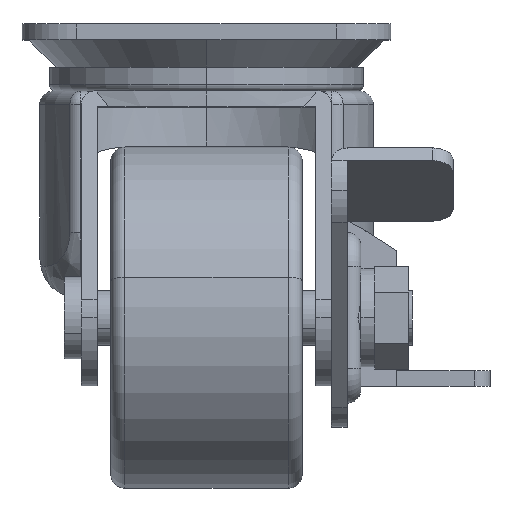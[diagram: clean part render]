
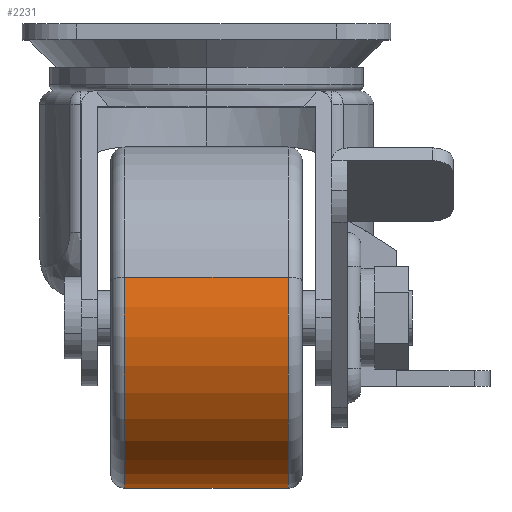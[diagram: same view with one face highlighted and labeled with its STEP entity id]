
A CAD part, top view. The second image highlights one B-rep face of the part: STEP entity #2231.
In plain terms, the highlighted cylindrical face has radius 25 mm (diameter 50 mm), a partial arc.
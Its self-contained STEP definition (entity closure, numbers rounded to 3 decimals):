
#221 = ORIENTED_EDGE ( 'NONE', *, *, #1757, .F. ) ;
#335 = EDGE_LOOP ( 'NONE', ( #221, #2160, #3538, #3685 ) ) ;
#357 = CIRCLE ( 'NONE', #1561, 25. ) ;
#709 = DIRECTION ( 'NONE',  ( -1., 0., 0. ) ) ;
#737 = VERTEX_POINT ( 'NONE', #4692 ) ;
#872 = LINE ( 'NONE', #2955, #4891 ) ;
#1006 = EDGE_CURVE ( 'NONE', #3768, #737, #1930, .T. ) ;
#1544 = CARTESIAN_POINT ( 'NONE',  ( -12., 0., -25. ) ) ;
#1561 = AXIS2_PLACEMENT_3D ( 'NONE', #4413, #709, #2371 ) ;
#1627 = FACE_OUTER_BOUND ( 'NONE', #335, .T. ) ;
#1757 = EDGE_CURVE ( 'NONE', #4815, #3793, #872, .T. ) ;
#1930 = LINE ( 'NONE', #1956, #3761 ) ;
#1956 = CARTESIAN_POINT ( 'NONE',  ( 14., 0., 25. ) ) ;
#1958 = CARTESIAN_POINT ( 'NONE',  ( 12., 0., -25. ) ) ;
#2008 = DIRECTION ( 'NONE',  ( 0., 0., -1. ) ) ;
#2053 = CIRCLE ( 'NONE', #4123, 25. ) ;
#2160 = ORIENTED_EDGE ( 'NONE', *, *, #4341, .T. ) ;
#2231 = ADVANCED_FACE ( 'NONE', ( #1627 ), #4107, .T. ) ;
#2310 = AXIS2_PLACEMENT_3D ( 'NONE', #5002, #2548, #4967 ) ;
#2371 = DIRECTION ( 'NONE',  ( 0., 0., -1. ) ) ;
#2502 = DIRECTION ( 'NONE',  ( -1., 0., 0. ) ) ;
#2548 = DIRECTION ( 'NONE',  ( -1., 0., 0. ) ) ;
#2848 = DIRECTION ( 'NONE',  ( 1., 0., 0. ) ) ;
#2955 = CARTESIAN_POINT ( 'NONE',  ( 14., 0., -25. ) ) ;
#2961 = EDGE_CURVE ( 'NONE', #737, #3793, #2053, .T. ) ;
#3538 = ORIENTED_EDGE ( 'NONE', *, *, #1006, .T. ) ;
#3685 = ORIENTED_EDGE ( 'NONE', *, *, #2961, .T. ) ;
#3761 = VECTOR ( 'NONE', #5257, 1000. ) ;
#3768 = VERTEX_POINT ( 'NONE', #3785 ) ;
#3785 = CARTESIAN_POINT ( 'NONE',  ( 12., 0., 25. ) ) ;
#3793 = VERTEX_POINT ( 'NONE', #1544 ) ;
#4107 = CYLINDRICAL_SURFACE ( 'NONE', #2310, 25. ) ;
#4123 = AXIS2_PLACEMENT_3D ( 'NONE', #5183, #2848, #2008 ) ;
#4341 = EDGE_CURVE ( 'NONE', #4815, #3768, #357, .T. ) ;
#4413 = CARTESIAN_POINT ( 'NONE',  ( 12., 0., 0. ) ) ;
#4692 = CARTESIAN_POINT ( 'NONE',  ( -12., 0., 25. ) ) ;
#4815 = VERTEX_POINT ( 'NONE', #1958 ) ;
#4891 = VECTOR ( 'NONE', #2502, 1000. ) ;
#4967 = DIRECTION ( 'NONE',  ( 0., 0., 1. ) ) ;
#5002 = CARTESIAN_POINT ( 'NONE',  ( 14., 0., 0. ) ) ;
#5183 = CARTESIAN_POINT ( 'NONE',  ( -12., 0., 0. ) ) ;
#5257 = DIRECTION ( 'NONE',  ( -1., 0., 0. ) ) ;
